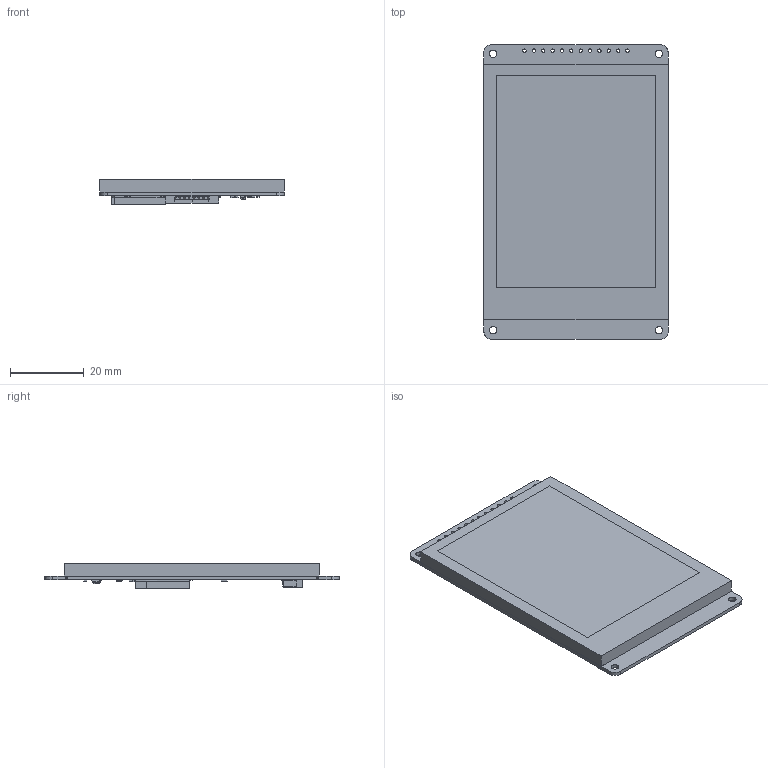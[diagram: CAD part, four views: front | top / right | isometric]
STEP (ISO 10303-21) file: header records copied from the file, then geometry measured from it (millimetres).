
FILE_DESCRIPTION(/* description */ (''),/* implementation_level */ '2;1');
FILE_NAME(/* name */ 'DFR0665',/* time_stamp */ '2023-11-24T11:20:06+08:00',/* author */ (''),/* organization */ (''),/* preprocessor_version */ 'ST-DEVELOPER v16.5',/* originating_system */ '',/* authorisation */ '');
FILE_SCHEMA (('AUTOMOTIVE_DESIGN'));
Length unit declared in the file: millimetre
Products named in the file (1): Document
Bounding box: 50 x 80 x 7 mm (x, y, z)
Volume: 16301.6 mm3; surface area: 23082.9 mm2
Topology: 66 solids, 68 shells, 1593 faces, 3649 edges, 2005 vertices
Faces by surface type: bspline 874, plane 719
Entity records: 59164 total; most frequent: CARTESIAN_POINT 36412, ORIENTED_EDGE 6896, EDGE_CURVE 3456, B_SPLINE_CURVE_WITH_KNOTS 2485, VERTEX_POINT 2004, EDGE_LOOP 1670, ADVANCED_FACE 1593, FACE_OUTER_BOUND 1593
